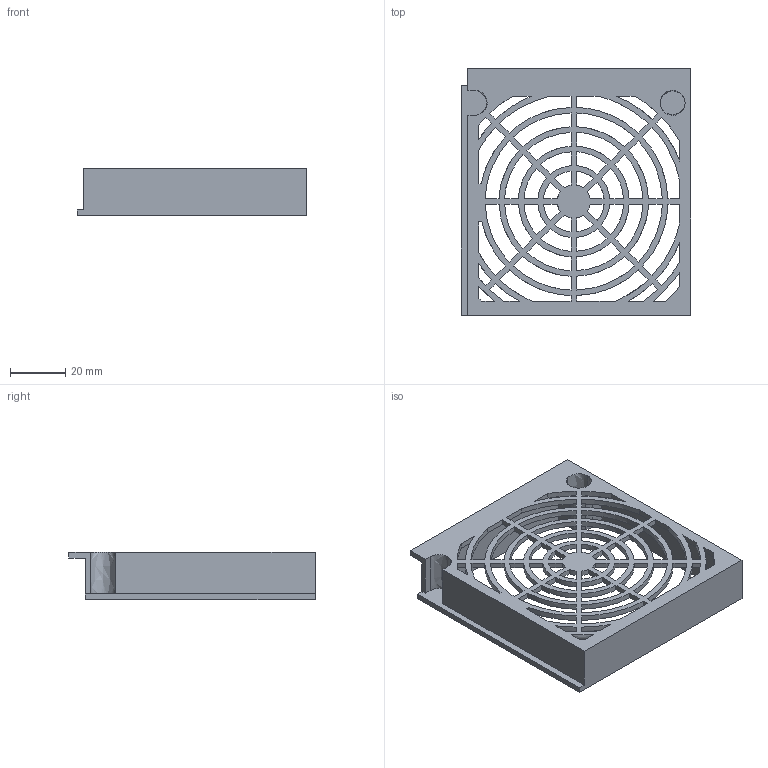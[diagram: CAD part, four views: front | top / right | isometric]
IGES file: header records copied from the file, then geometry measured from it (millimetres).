
Start section:  PTC IGES file: j4-500-fancover.igs
Global section: file name: j4-500-fancover.igs; native system: Pro/ENGINEER by Parametric Technology Corporation; preprocessor: 2010160; author: CV86875; organization: Unknown; date: 20121031.193935; units: millimetre
Bounding box: 83 x 89 x 17 mm (x, y, z)
Volume: 18732 mm3; surface area: 22826.6 mm2
Topology: 1 solids, 1 shells, 238 faces, 708 edges, 472 vertices
Faces by surface type: bspline 238
